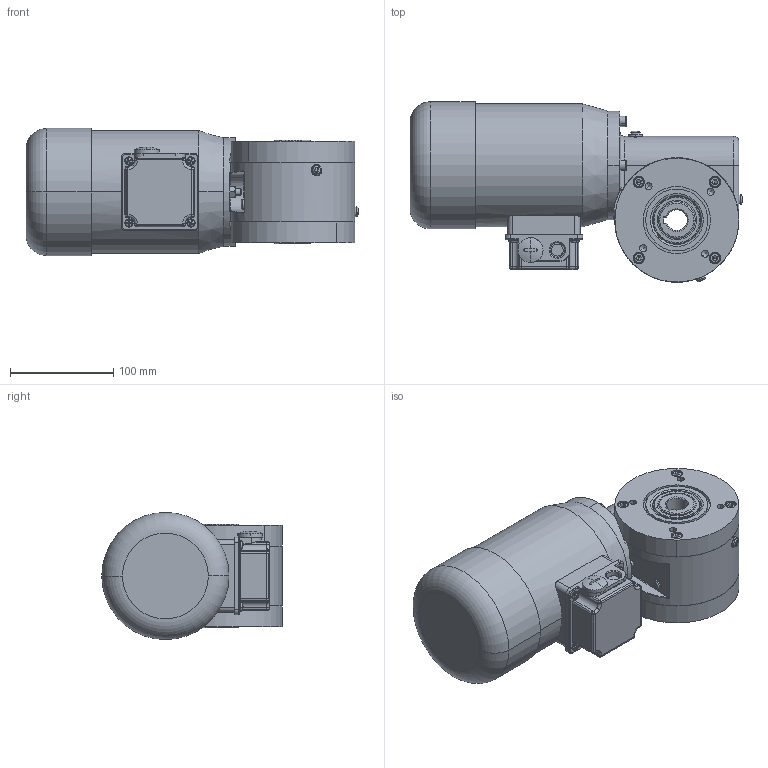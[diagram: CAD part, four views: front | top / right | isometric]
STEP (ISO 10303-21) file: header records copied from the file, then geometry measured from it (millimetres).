
FILE_DESCRIPTION (( 'STEP AP214' ), '1' );
FILE_NAME ('SN8BFH_180W_1400Upm_Drehstrom-Motor_B.STEP', '2021-09-21T06:33:01', ( '' ), ( '' ), 'SwSTEP 2.0', 'SolidWorks 2019', '' );
FILE_SCHEMA (( 'AUTOMOTIVE_DESIGN' ));
Length unit declared in the file: millimetre
Products named in the file (13): SN8BFH_180W_1400Upm_Drehstrom-Motor_B; hex nut style 1 gradeab_din_Hexagon Nut ISO 4032 - M6 - D - C; socket head cap screw_din_DIN 912 M6 x 20 --- 20C; U-Seal Ring Ø5; slotted pan head screw_din_DIN EN ISO 1580 - M5 x 6 - 6C; socket set screw flat point_din_DIN 913 - M6 x 25-C; NBR_WDR_35x47x7; 08B-G-003_3D_Export; SN8BFH_3D_Export; 08FH-W-001_3D_Export; Kupferscheibe Ø6x10x1; 08-M-166 I 180W_1400Upm; 08BFH-D-008_3D_Export
Assembly tree (37 placements, depth 3):
  SN8BFH_180W_1400Upm_Drehstrom-Motor_B
    SN8BFH_3D_Export
      08B-G-003_3D_Export
      08FH-W-001_3D_Export
      08BFH-D-008_3D_Export  x2
      NBR_WDR_35x47x7  x2
      socket head cap screw_din_DIN 912 M6 x 20 --- 20C  x11
      slotted pan head screw_din_DIN EN ISO 1580 - M5 x 6 - 6C  x4
      socket set screw flat point_din_DIN 913 - M6 x 25-C
      hex nut style 1 gradeab_din_Hexagon Nut ISO 4032 - M6 - D - C
      Kupferscheibe Ø6x10x1  x8
      U-Seal Ring Ø5  x4
    08-M-166 I 180W_1400Upm
Bounding box: 321 x 174.5 x 123 mm (x, y, z)
Volume: 3527337.8 mm3; surface area: 319230.4 mm2
Topology: 37 solids, 37 shells, 1213 faces, 2843 edges, 1740 vertices
Faces by surface type: cylinder 418, plane 370, cone 197, torus 182, sphere 24, bspline 22
Entity records: 26525 total; most frequent: CARTESIAN_POINT 7456, DIRECTION 4166, ORIENTED_EDGE 3698, EDGE_CURVE 1849, AXIS2_PLACEMENT_3D 1785, VERTEX_POINT 1162, CIRCLE 1005, EDGE_LOOP 849
